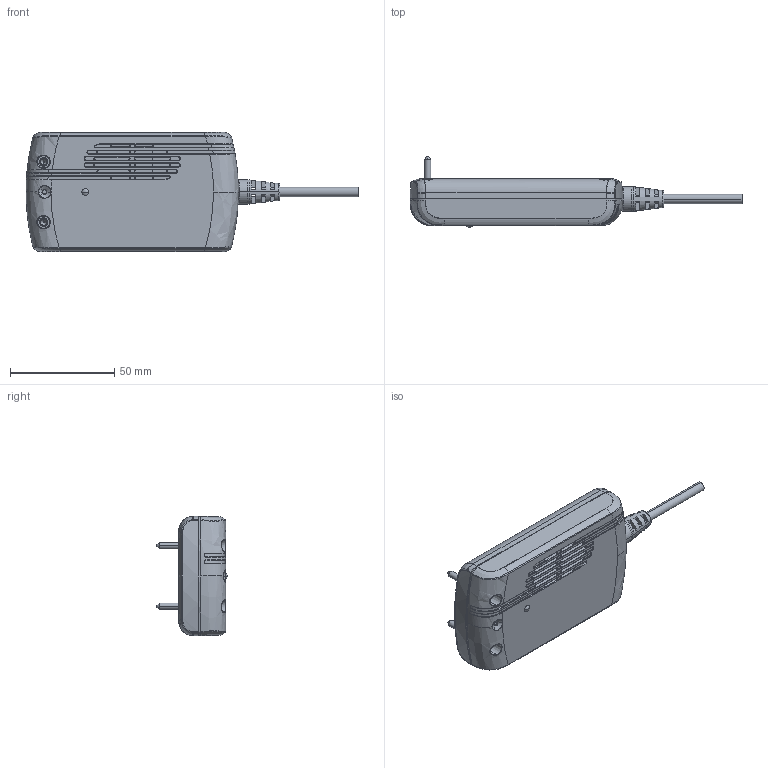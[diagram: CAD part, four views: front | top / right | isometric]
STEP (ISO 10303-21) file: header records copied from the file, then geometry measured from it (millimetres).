
FILE_DESCRIPTION (( 'STEP AP203' ), '1' );
FILE_NAME ('jb50-0324.STEP', '2024-02-21T02:40:05', ( '' ), ( '' ), 'SwSTEP 2.0', 'SolidWorks 2020', '' );
FILE_SCHEMA (( 'CONFIG_CONTROL_DESIGN' ));
Length unit declared in the file: millimetre
Products named in the file (1): jb50-0324
Bounding box: 159.4 x 33.89 x 57.5 mm (x, y, z)
Surface area: 20597.4 mm2 (no closed solid volume)
Topology: 0 solids, 7 shells, 413 faces, 1206 edges, 767 vertices
Faces by surface type: bspline 211, plane 95, cylinder 45, torus 32, cone 28, sphere 2
Entity records: 29133 total; most frequent: CARTESIAN_POINT 19733, ORIENTED_EDGE 2137, DIRECTION 1490, EDGE_CURVE 1206, VERTEX_POINT 767, AXIS2_PLACEMENT_3D 600, B_SPLINE_CURVE_WITH_KNOTS 448, EDGE_LOOP 434
